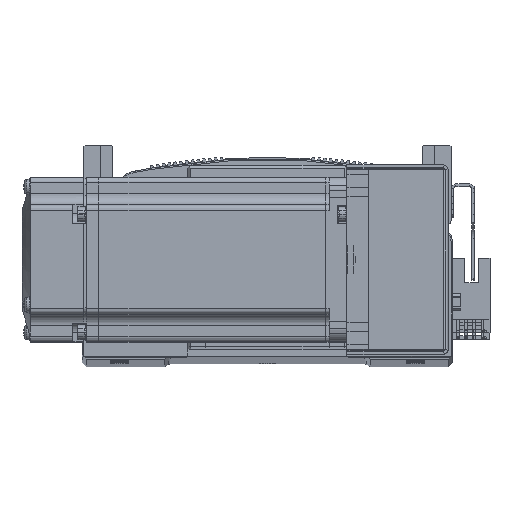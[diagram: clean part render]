
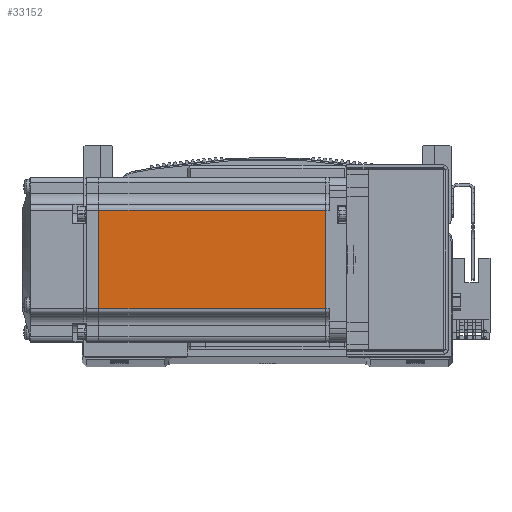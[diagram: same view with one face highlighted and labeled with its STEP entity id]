
A CAD part, top view. The second image highlights one B-rep face of the part: STEP entity #33152.
In plain terms, the highlighted planar face has unit normal (0, 0, 1) as drawn and (0, -1, 0) by its records, which use the part's own axes.
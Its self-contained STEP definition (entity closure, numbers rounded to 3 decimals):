
#16859 = FACE_OUTER_BOUND ( 'NONE', #85241, .T. ) ;
#21060 = AXIS2_PLACEMENT_3D ( 'NONE', #82024, #82011, #82031 ) ;
#23751 = CARTESIAN_POINT ( 'NONE',  ( -90.45, -30., 18. ) ) ;
#23767 = CARTESIAN_POINT ( 'NONE',  ( -7.75, -30., -18. ) ) ;
#23775 = CARTESIAN_POINT ( 'NONE',  ( -90.45, -30., -18. ) ) ;
#23846 = CARTESIAN_POINT ( 'NONE',  ( -7.75, -30., 18. ) ) ;
#33152 = ADVANCED_FACE ( 'NONE', ( #16859 ), #82010, .T. ) ;
#48282 = EDGE_CURVE ( 'NONE', #54398, #54352, #65543, .T. ) ;
#48309 = EDGE_CURVE ( 'NONE', #54422, #54357, #65596, .T. ) ;
#48343 = EDGE_CURVE ( 'NONE', #54357, #54352, #65673, .T. ) ;
#48362 = EDGE_CURVE ( 'NONE', #54422, #54398, #65670, .T. ) ;
#54352 = VERTEX_POINT ( 'NONE', #23775 ) ;
#54357 = VERTEX_POINT ( 'NONE', #23767 ) ;
#54398 = VERTEX_POINT ( 'NONE', #23751 ) ;
#54422 = VERTEX_POINT ( 'NONE', #23846 ) ;
#57394 = ORIENTED_EDGE ( 'NONE', *, *, #48343, .F. ) ;
#57410 = ORIENTED_EDGE ( 'NONE', *, *, #48309, .F. ) ;
#57413 = ORIENTED_EDGE ( 'NONE', *, *, #48282, .T. ) ;
#57426 = ORIENTED_EDGE ( 'NONE', *, *, #48362, .T. ) ;
#65543 = LINE ( 'NONE', #78222, #65572 ) ;
#65572 = VECTOR ( 'NONE', #78249, 1000. ) ;
#65590 = VECTOR ( 'NONE', #78280, 1000. ) ;
#65596 = LINE ( 'NONE', #78293, #65590 ) ;
#65662 = VECTOR ( 'NONE', #78403, 1000. ) ;
#65670 = LINE ( 'NONE', #78396, #65662 ) ;
#65673 = LINE ( 'NONE', #78377, #65683 ) ;
#65683 = VECTOR ( 'NONE', #78379, 1000. ) ;
#78222 = CARTESIAN_POINT ( 'NONE',  ( -90.45, -30., 0. ) ) ;
#78249 = DIRECTION ( 'NONE',  ( 0., 0., -1. ) ) ;
#78280 = DIRECTION ( 'NONE',  ( 0., 0., -1. ) ) ;
#78293 = CARTESIAN_POINT ( 'NONE',  ( -7.75, -30., 0. ) ) ;
#78377 = CARTESIAN_POINT ( 'NONE',  ( -6.5, -30., -18. ) ) ;
#78379 = DIRECTION ( 'NONE',  ( -1., 0., 0. ) ) ;
#78396 = CARTESIAN_POINT ( 'NONE',  ( -6.5, -30., 18. ) ) ;
#78403 = DIRECTION ( 'NONE',  ( -1., 0., 0. ) ) ;
#82010 = PLANE ( 'NONE',  #21060 ) ;
#82011 = DIRECTION ( 'NONE',  ( 0., -1., 0. ) ) ;
#82024 = CARTESIAN_POINT ( 'NONE',  ( -6.5, -30., -25. ) ) ;
#82031 = DIRECTION ( 'NONE',  ( 0., 0., -1. ) ) ;
#85241 = EDGE_LOOP ( 'NONE', ( #57410, #57426, #57413, #57394 ) ) ;
